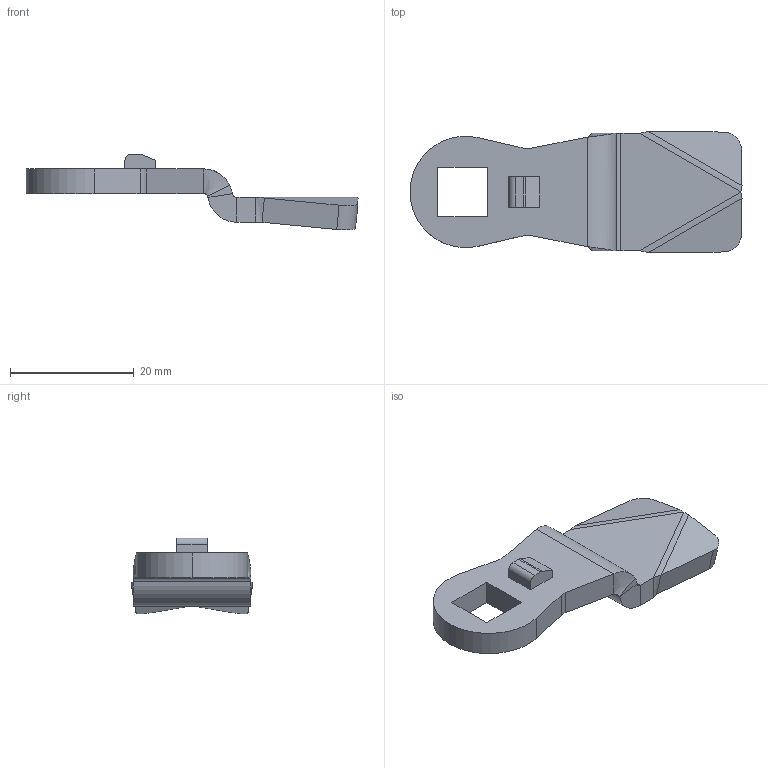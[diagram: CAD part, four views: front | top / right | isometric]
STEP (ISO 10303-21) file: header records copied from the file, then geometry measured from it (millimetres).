
FILE_DESCRIPTION (( 'STEP AP214' ), '1' );
FILE_NAME ('1C.J-175.21.45.STEP', '2012-06-05T13:37:32', ( 'lukasz' ), ( 'ATC' ), 'SwSTEP 2.0', 'SolidWorks 2010', '' );
FILE_SCHEMA (( 'AUTOMOTIVE_DESIGN' ));
Length unit declared in the file: millimetre
Products named in the file (1): 1C.J-175.21.45
Bounding box: 53.67 x 19.58 x 12.27 mm (x, y, z)
Volume: 3559.5 mm3; surface area: 2524.6 mm2
Topology: 1 solids, 1 shells, 60 faces, 140 edges, 84 vertices
Faces by surface type: plane 38, cylinder 16, bspline 6
Entity records: 1816 total; most frequent: CARTESIAN_POINT 465, ORIENTED_EDGE 280, DIRECTION 250, EDGE_CURVE 140, VECTOR 92, LINE 92, VERTEX_POINT 84, AXIS2_PLACEMENT_3D 79
